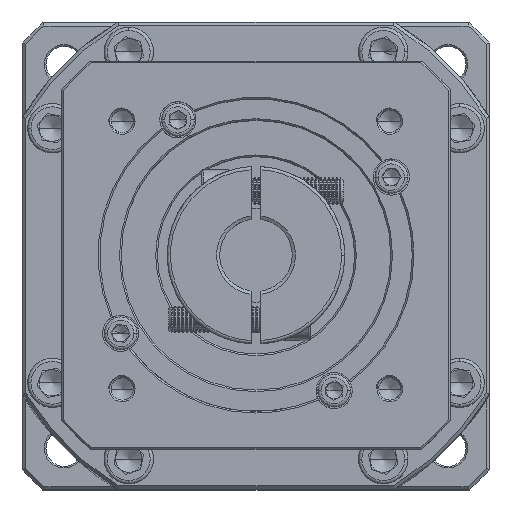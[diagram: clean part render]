
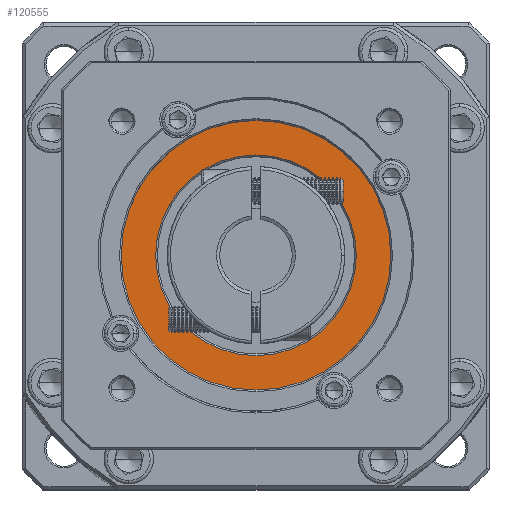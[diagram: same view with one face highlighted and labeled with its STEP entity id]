
A CAD part, top view. The second image highlights one B-rep face of the part: STEP entity #120555.
In plain terms, the highlighted planar face has unit normal (0, 0, 1).
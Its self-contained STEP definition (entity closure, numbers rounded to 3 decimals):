
#2788 = CARTESIAN_POINT ( 'NONE',  ( -145.14, 117.326, -2.678 ) ) ;
#4028 = EDGE_CURVE ( 'NONE', #53546, #6726, #7102, .T. ) ;
#4883 = DIRECTION ( 'NONE',  ( 0., 0., 1. ) ) ;
#6726 = VERTEX_POINT ( 'NONE', #43056 ) ;
#7102 = CIRCLE ( 'NONE', #85832, 30.5 ) ;
#7614 = ORIENTED_EDGE ( 'NONE', *, *, #11841, .T. ) ;
#9748 = DIRECTION ( 'NONE',  ( 0., 0., -1. ) ) ;
#9860 = VERTEX_POINT ( 'NONE', #83531 ) ;
#11841 = EDGE_CURVE ( 'NONE', #6726, #53546, #48302, .T. ) ;
#16325 = VERTEX_POINT ( 'NONE', #66085 ) ;
#18076 = FACE_BOUND ( 'NONE', #63957, .T. ) ;
#29953 = CARTESIAN_POINT ( 'NONE',  ( -145.14, 117.326, -2.678 ) ) ;
#43056 = CARTESIAN_POINT ( 'NONE',  ( -175.64, 117.326, -2.678 ) ) ;
#48302 = CIRCLE ( 'NONE', #49356, 30.5 ) ;
#49356 = AXIS2_PLACEMENT_3D ( 'NONE', #29953, #86268, #95807 ) ;
#49986 = AXIS2_PLACEMENT_3D ( 'NONE', #2788, #57786, #90918 ) ;
#51385 = PLANE ( 'NONE',  #133979 ) ;
#53467 = FACE_OUTER_BOUND ( 'NONE', #136960, .T. ) ;
#53546 = VERTEX_POINT ( 'NONE', #120922 ) ;
#57070 = DIRECTION ( 'NONE',  ( 0., 0., 1. ) ) ;
#57786 = DIRECTION ( 'NONE',  ( 0., 0., 1. ) ) ;
#60838 = CARTESIAN_POINT ( 'NONE',  ( -145.14, 117.326, -2.678 ) ) ;
#63957 = EDGE_LOOP ( 'NONE', ( #93369, #7614 ) ) ;
#66085 = CARTESIAN_POINT ( 'NONE',  ( -104.14, 117.326, -2.678 ) ) ;
#66636 = DIRECTION ( 'NONE',  ( 1., 0., 0. ) ) ;
#67760 = CIRCLE ( 'NONE', #127977, 41. ) ;
#78816 = CARTESIAN_POINT ( 'NONE',  ( -145.14, 117.326, -2.678 ) ) ;
#83531 = CARTESIAN_POINT ( 'NONE',  ( -186.14, 117.326, -2.678 ) ) ;
#83982 = DIRECTION ( 'NONE',  ( 1., 0., 0. ) ) ;
#85030 = ORIENTED_EDGE ( 'NONE', *, *, #109076, .T. ) ;
#85832 = AXIS2_PLACEMENT_3D ( 'NONE', #111504, #9748, #66636 ) ;
#86268 = DIRECTION ( 'NONE',  ( 0., 0., -1. ) ) ;
#90918 = DIRECTION ( 'NONE',  ( 1., 0., 0. ) ) ;
#93369 = ORIENTED_EDGE ( 'NONE', *, *, #4028, .T. ) ;
#95807 = DIRECTION ( 'NONE',  ( 1., 0., 0. ) ) ;
#97769 = ORIENTED_EDGE ( 'NONE', *, *, #123642, .T. ) ;
#98736 = CIRCLE ( 'NONE', #49986, 41. ) ;
#109076 = EDGE_CURVE ( 'NONE', #16325, #9860, #98736, .T. ) ;
#111504 = CARTESIAN_POINT ( 'NONE',  ( -145.14, 117.326, -2.678 ) ) ;
#114713 = DIRECTION ( 'NONE',  ( 1., 0., 0. ) ) ;
#120555 = ADVANCED_FACE ( 'NONE', ( #53467, #18076 ), #51385, .T. ) ;
#120922 = CARTESIAN_POINT ( 'NONE',  ( -114.64, 117.326, -2.678 ) ) ;
#123642 = EDGE_CURVE ( 'NONE', #9860, #16325, #67760, .T. ) ;
#127977 = AXIS2_PLACEMENT_3D ( 'NONE', #78816, #57070, #114713 ) ;
#133979 = AXIS2_PLACEMENT_3D ( 'NONE', #60838, #4883, #83982 ) ;
#136960 = EDGE_LOOP ( 'NONE', ( #85030, #97769 ) ) ;
